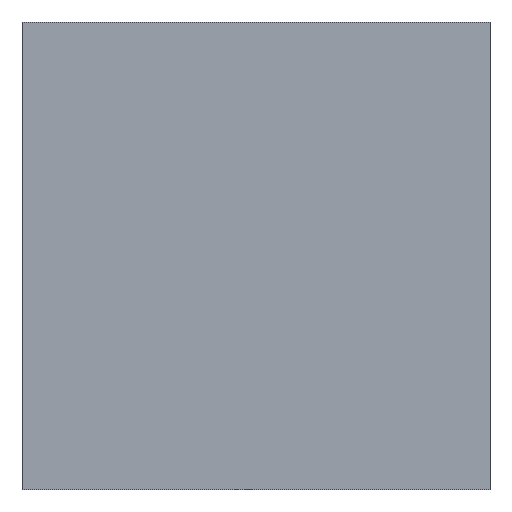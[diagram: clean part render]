
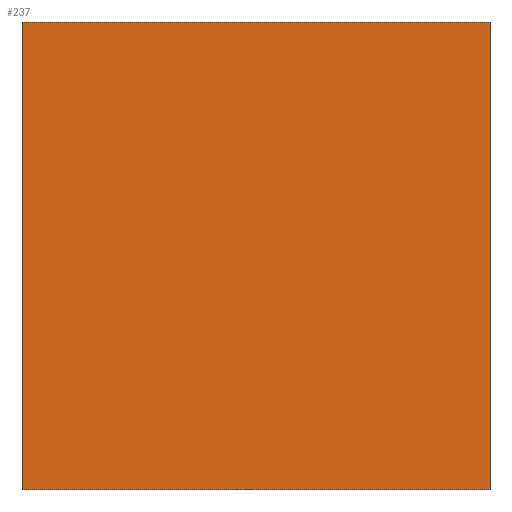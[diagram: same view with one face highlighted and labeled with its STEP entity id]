
A CAD part, front view. The second image highlights one B-rep face of the part: STEP entity #237.
In plain terms, the highlighted planar face has unit normal (0, -1, 0).
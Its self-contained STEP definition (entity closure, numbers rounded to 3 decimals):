
#21 = EDGE_CURVE('',#22,#24,#26,.T.);
#22 = VERTEX_POINT('',#23);
#23 = CARTESIAN_POINT('',(-32.,-39.,9.8));
#24 = VERTEX_POINT('',#25);
#25 = CARTESIAN_POINT('',(-32.,-39.,11.6));
#26 = SURFACE_CURVE('',#27,(#31,#43),.PCURVE_S1.);
#27 = LINE('',#28,#29);
#28 = CARTESIAN_POINT('',(-32.,-39.,9.8));
#29 = VECTOR('',#30,1.);
#30 = DIRECTION('',(0.,0.,1.));
#31 = PCURVE('',#32,#37);
#32 = PLANE('',#33);
#33 = AXIS2_PLACEMENT_3D('',#34,#35,#36);
#34 = CARTESIAN_POINT('',(-32.,-39.,9.8));
#35 = DIRECTION('',(1.,0.,0.));
#36 = DIRECTION('',(0.,0.,1.));
#37 = DEFINITIONAL_REPRESENTATION('',(#38),#42);
#38 = LINE('',#39,#40);
#39 = CARTESIAN_POINT('',(0.,0.));
#40 = VECTOR('',#41,1.);
#41 = DIRECTION('',(1.,0.));
#42 = ( GEOMETRIC_REPRESENTATION_CONTEXT(2) 
PARAMETRIC_REPRESENTATION_CONTEXT() REPRESENTATION_CONTEXT('2D SPACE',''
  ) );
#43 = PCURVE('',#44,#49);
#44 = PLANE('',#45);
#45 = AXIS2_PLACEMENT_3D('',#46,#47,#48);
#46 = CARTESIAN_POINT('',(-32.,-39.,9.8));
#47 = DIRECTION('',(0.,1.,0.));
#48 = DIRECTION('',(0.,-0.,1.));
#49 = DEFINITIONAL_REPRESENTATION('',(#50),#54);
#50 = LINE('',#51,#52);
#51 = CARTESIAN_POINT('',(0.,0.));
#52 = VECTOR('',#53,1.);
#53 = DIRECTION('',(1.,0.));
#54 = ( GEOMETRIC_REPRESENTATION_CONTEXT(2) 
PARAMETRIC_REPRESENTATION_CONTEXT() REPRESENTATION_CONTEXT('2D SPACE',''
  ) );
#72 = PLANE('',#73);
#73 = AXIS2_PLACEMENT_3D('',#74,#75,#76);
#74 = CARTESIAN_POINT('',(-32.,-39.,9.8));
#75 = DIRECTION('',(0.,0.,1.));
#76 = DIRECTION('',(1.,0.,-0.));
#126 = PLANE('',#127);
#127 = AXIS2_PLACEMENT_3D('',#128,#129,#130);
#128 = CARTESIAN_POINT('',(-32.,-39.,11.6));
#129 = DIRECTION('',(0.,0.,1.));
#130 = DIRECTION('',(1.,0.,-0.));
#141 = EDGE_CURVE('',#142,#144,#146,.T.);
#142 = VERTEX_POINT('',#143);
#143 = CARTESIAN_POINT('',(-30.2,-39.,9.8));
#144 = VERTEX_POINT('',#145);
#145 = CARTESIAN_POINT('',(-30.2,-39.,11.6));
#146 = SURFACE_CURVE('',#147,(#151,#163),.PCURVE_S1.);
#147 = LINE('',#148,#149);
#148 = CARTESIAN_POINT('',(-30.2,-39.,9.8));
#149 = VECTOR('',#150,1.);
#150 = DIRECTION('',(0.,0.,1.));
#151 = PCURVE('',#152,#157);
#152 = PLANE('',#153);
#153 = AXIS2_PLACEMENT_3D('',#154,#155,#156);
#154 = CARTESIAN_POINT('',(-30.2,-39.,9.8));
#155 = DIRECTION('',(1.,0.,0.));
#156 = DIRECTION('',(0.,0.,1.));
#157 = DEFINITIONAL_REPRESENTATION('',(#158),#162);
#158 = LINE('',#159,#160);
#159 = CARTESIAN_POINT('',(0.,0.));
#160 = VECTOR('',#161,1.);
#161 = DIRECTION('',(1.,0.));
#162 = ( GEOMETRIC_REPRESENTATION_CONTEXT(2) 
PARAMETRIC_REPRESENTATION_CONTEXT() REPRESENTATION_CONTEXT('2D SPACE',''
  ) );
#163 = PCURVE('',#44,#164);
#164 = DEFINITIONAL_REPRESENTATION('',(#165),#169);
#165 = LINE('',#166,#167);
#166 = CARTESIAN_POINT('',(0.,1.8));
#167 = VECTOR('',#168,1.);
#168 = DIRECTION('',(1.,0.));
#169 = ( GEOMETRIC_REPRESENTATION_CONTEXT(2) 
PARAMETRIC_REPRESENTATION_CONTEXT() REPRESENTATION_CONTEXT('2D SPACE',''
  ) );
#237 = ADVANCED_FACE('',(#238),#44,.F.);
#238 = FACE_BOUND('',#239,.F.);
#239 = EDGE_LOOP('',(#240,#261,#262,#283));
#240 = ORIENTED_EDGE('',*,*,#241,.F.);
#241 = EDGE_CURVE('',#22,#142,#242,.T.);
#242 = SURFACE_CURVE('',#243,(#247,#254),.PCURVE_S1.);
#243 = LINE('',#244,#245);
#244 = CARTESIAN_POINT('',(-32.,-39.,9.8));
#245 = VECTOR('',#246,1.);
#246 = DIRECTION('',(1.,0.,0.));
#247 = PCURVE('',#44,#248);
#248 = DEFINITIONAL_REPRESENTATION('',(#249),#253);
#249 = LINE('',#250,#251);
#250 = CARTESIAN_POINT('',(0.,0.));
#251 = VECTOR('',#252,1.);
#252 = DIRECTION('',(0.,1.));
#253 = ( GEOMETRIC_REPRESENTATION_CONTEXT(2) 
PARAMETRIC_REPRESENTATION_CONTEXT() REPRESENTATION_CONTEXT('2D SPACE',''
  ) );
#254 = PCURVE('',#72,#255);
#255 = DEFINITIONAL_REPRESENTATION('',(#256),#260);
#256 = LINE('',#257,#258);
#257 = CARTESIAN_POINT('',(0.,0.));
#258 = VECTOR('',#259,1.);
#259 = DIRECTION('',(1.,0.));
#260 = ( GEOMETRIC_REPRESENTATION_CONTEXT(2) 
PARAMETRIC_REPRESENTATION_CONTEXT() REPRESENTATION_CONTEXT('2D SPACE',''
  ) );
#261 = ORIENTED_EDGE('',*,*,#21,.T.);
#262 = ORIENTED_EDGE('',*,*,#263,.T.);
#263 = EDGE_CURVE('',#24,#144,#264,.T.);
#264 = SURFACE_CURVE('',#265,(#269,#276),.PCURVE_S1.);
#265 = LINE('',#266,#267);
#266 = CARTESIAN_POINT('',(-32.,-39.,11.6));
#267 = VECTOR('',#268,1.);
#268 = DIRECTION('',(1.,0.,0.));
#269 = PCURVE('',#44,#270);
#270 = DEFINITIONAL_REPRESENTATION('',(#271),#275);
#271 = LINE('',#272,#273);
#272 = CARTESIAN_POINT('',(1.8,0.));
#273 = VECTOR('',#274,1.);
#274 = DIRECTION('',(0.,1.));
#275 = ( GEOMETRIC_REPRESENTATION_CONTEXT(2) 
PARAMETRIC_REPRESENTATION_CONTEXT() REPRESENTATION_CONTEXT('2D SPACE',''
  ) );
#276 = PCURVE('',#126,#277);
#277 = DEFINITIONAL_REPRESENTATION('',(#278),#282);
#278 = LINE('',#279,#280);
#279 = CARTESIAN_POINT('',(0.,0.));
#280 = VECTOR('',#281,1.);
#281 = DIRECTION('',(1.,0.));
#282 = ( GEOMETRIC_REPRESENTATION_CONTEXT(2) 
PARAMETRIC_REPRESENTATION_CONTEXT() REPRESENTATION_CONTEXT('2D SPACE',''
  ) );
#283 = ORIENTED_EDGE('',*,*,#141,.F.);
